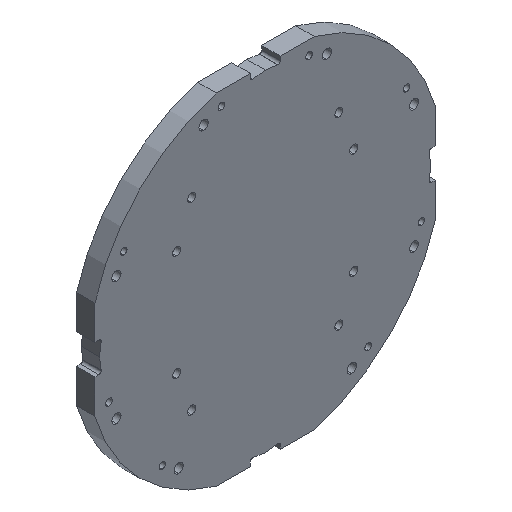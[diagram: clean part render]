
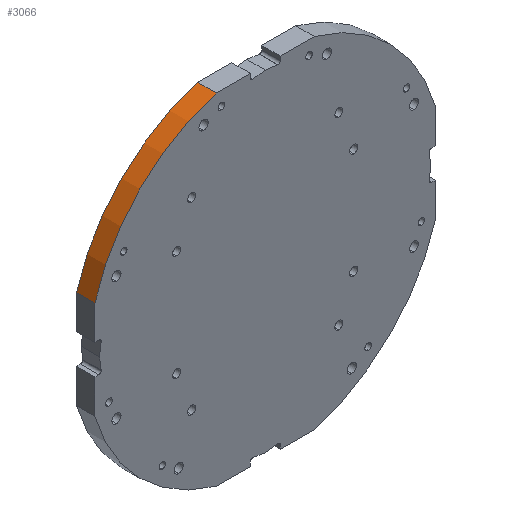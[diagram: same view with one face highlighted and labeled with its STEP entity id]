
A CAD part, isometric view. The second image highlights one B-rep face of the part: STEP entity #3066.
In plain terms, the highlighted cylindrical face has radius 385 mm (diameter 770 mm), a partial arc.
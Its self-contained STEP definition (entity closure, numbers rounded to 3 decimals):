
#23 = VERTEX_POINT ( 'NONE', #1645 ) ;
#71 = DIRECTION ( 'NONE',  ( 0., 0., 1. ) ) ;
#181 = DIRECTION ( 'NONE',  ( 0., -1., 0. ) ) ;
#238 = CYLINDRICAL_SURFACE ( 'NONE', #3937, 385. ) ;
#398 = CARTESIAN_POINT ( 'NONE',  ( -370., 0., 106.419 ) ) ;
#407 = EDGE_CURVE ( 'NONE', #2347, #3874, #1608, .T. ) ;
#444 = LINE ( 'NONE', #398, #3207 ) ;
#453 = CARTESIAN_POINT ( 'NONE',  ( -370., 0., 106.419 ) ) ;
#489 = EDGE_CURVE ( 'NONE', #2347, #23, #444, .T. ) ;
#744 = DIRECTION ( 'NONE',  ( 0., 0., 1. ) ) ;
#839 = EDGE_CURVE ( 'NONE', #23, #2072, #2750, .T. ) ;
#1083 = EDGE_LOOP ( 'NONE', ( #2673, #1302, #1885, #2349 ) ) ;
#1302 = ORIENTED_EDGE ( 'NONE', *, *, #489, .F. ) ;
#1304 = CARTESIAN_POINT ( 'NONE',  ( -106.419, 0., 370. ) ) ;
#1608 = CIRCLE ( 'NONE', #3333, 385. ) ;
#1645 = CARTESIAN_POINT ( 'NONE',  ( -370., 40., 106.419 ) ) ;
#1678 = CARTESIAN_POINT ( 'NONE',  ( 0., 40., 0. ) ) ;
#1742 = CARTESIAN_POINT ( 'NONE',  ( 0., 40., 0. ) ) ;
#1763 = FACE_OUTER_BOUND ( 'NONE', #1083, .T. ) ;
#1885 = ORIENTED_EDGE ( 'NONE', *, *, #407, .T. ) ;
#1895 = CARTESIAN_POINT ( 'NONE',  ( -106.419, 0., 370. ) ) ;
#1925 = AXIS2_PLACEMENT_3D ( 'NONE', #1678, #2887, #744 ) ;
#1951 = CARTESIAN_POINT ( 'NONE',  ( 0., 0., 0. ) ) ;
#2072 = VERTEX_POINT ( 'NONE', #2511 ) ;
#2347 = VERTEX_POINT ( 'NONE', #453 ) ;
#2349 = ORIENTED_EDGE ( 'NONE', *, *, #2534, .T. ) ;
#2511 = CARTESIAN_POINT ( 'NONE',  ( -106.419, 40., 370. ) ) ;
#2534 = EDGE_CURVE ( 'NONE', #3874, #2072, #2859, .T. ) ;
#2548 = DIRECTION ( 'NONE',  ( 0., 1., 0. ) ) ;
#2673 = ORIENTED_EDGE ( 'NONE', *, *, #839, .F. ) ;
#2750 = CIRCLE ( 'NONE', #1925, 385. ) ;
#2859 = LINE ( 'NONE', #1895, #3084 ) ;
#2887 = DIRECTION ( 'NONE',  ( 0., 1., 0. ) ) ;
#2980 = DIRECTION ( 'NONE',  ( 0., 0., -1. ) ) ;
#3066 = ADVANCED_FACE ( 'NONE', ( #1763 ), #238, .T. ) ;
#3084 = VECTOR ( 'NONE', #2548, 1000. ) ;
#3145 = DIRECTION ( 'NONE',  ( 0., 1., 0. ) ) ;
#3207 = VECTOR ( 'NONE', #3847, 1000. ) ;
#3333 = AXIS2_PLACEMENT_3D ( 'NONE', #1951, #3145, #71 ) ;
#3847 = DIRECTION ( 'NONE',  ( 0., 1., 0. ) ) ;
#3874 = VERTEX_POINT ( 'NONE', #1304 ) ;
#3937 = AXIS2_PLACEMENT_3D ( 'NONE', #1742, #181, #2980 ) ;
